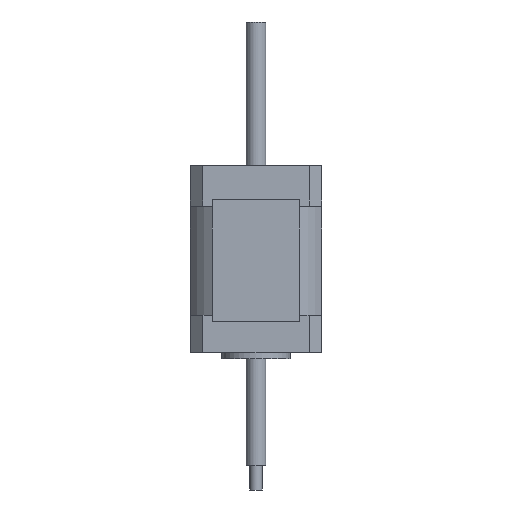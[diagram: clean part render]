
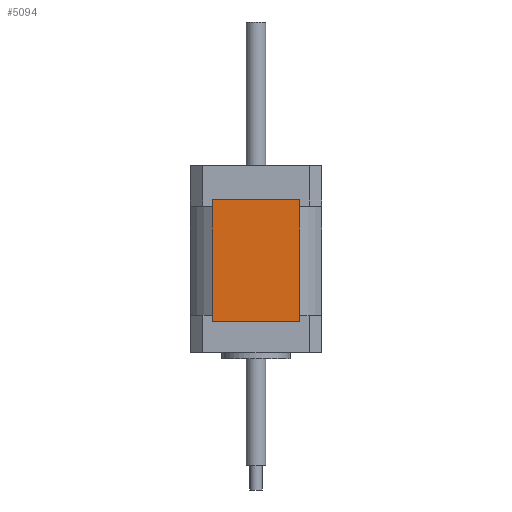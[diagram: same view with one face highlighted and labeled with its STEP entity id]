
A CAD part, front view. The second image highlights one B-rep face of the part: STEP entity #5094.
In plain terms, the highlighted planar face has unit normal (0, -1, 0).
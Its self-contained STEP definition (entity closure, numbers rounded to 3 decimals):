
#178 = CARTESIAN_POINT ( 'NONE',  ( 0., -21., 42. ) ) ;
#255 = ORIENTED_EDGE ( 'NONE', *, *, #3496, .F. ) ;
#376 = DIRECTION ( 'NONE',  ( 1., 0., 0. ) ) ;
#878 = DIRECTION ( 'NONE',  ( 0., 0., -1. ) ) ;
#1183 = ORIENTED_EDGE ( 'NONE', *, *, #2059, .T. ) ;
#1240 = VECTOR ( 'NONE', #2264, 1000. ) ;
#1372 = CARTESIAN_POINT ( 'NONE',  ( 0., -21., 3. ) ) ;
#2029 = LINE ( 'NONE', #6084, #4420 ) ;
#2059 = EDGE_CURVE ( 'NONE', #2954, #4466, #4791, .T. ) ;
#2254 = VECTOR ( 'NONE', #376, 1000. ) ;
#2264 = DIRECTION ( 'NONE',  ( 0., 0., -1. ) ) ;
#2383 = CARTESIAN_POINT ( 'NONE',  ( 14., -21., 42. ) ) ;
#2550 = EDGE_CURVE ( 'NONE', #6100, #5932, #4007, .T. ) ;
#2753 = PLANE ( 'NONE',  #3839 ) ;
#2954 = VERTEX_POINT ( 'NONE', #4697 ) ;
#3274 = DIRECTION ( 'NONE',  ( 1., 0., 0. ) ) ;
#3438 = VECTOR ( 'NONE', #878, 1000. ) ;
#3496 = EDGE_CURVE ( 'NONE', #2954, #6100, #2029, .T. ) ;
#3662 = ORIENTED_EDGE ( 'NONE', *, *, #2550, .F. ) ;
#3839 = AXIS2_PLACEMENT_3D ( 'NONE', #178, #6278, #3274 ) ;
#4007 = LINE ( 'NONE', #2383, #1240 ) ;
#4026 = EDGE_CURVE ( 'NONE', #4466, #5932, #4098, .T. ) ;
#4098 = LINE ( 'NONE', #1372, #2254 ) ;
#4367 = CARTESIAN_POINT ( 'NONE',  ( 14., -21., 3. ) ) ;
#4420 = VECTOR ( 'NONE', #6017, 1000. ) ;
#4439 = CARTESIAN_POINT ( 'NONE',  ( -14., -21., 3. ) ) ;
#4466 = VERTEX_POINT ( 'NONE', #4439 ) ;
#4503 = ORIENTED_EDGE ( 'NONE', *, *, #4026, .T. ) ;
#4697 = CARTESIAN_POINT ( 'NONE',  ( -14., -21., 42. ) ) ;
#4791 = LINE ( 'NONE', #5235, #3438 ) ;
#5094 = ADVANCED_FACE ( 'NONE', ( #5736 ), #2753, .F. ) ;
#5235 = CARTESIAN_POINT ( 'NONE',  ( -14., -21., 42. ) ) ;
#5736 = FACE_OUTER_BOUND ( 'NONE', #6023, .T. ) ;
#5932 = VERTEX_POINT ( 'NONE', #4367 ) ;
#6017 = DIRECTION ( 'NONE',  ( 1., 0., 0. ) ) ;
#6023 = EDGE_LOOP ( 'NONE', ( #4503, #3662, #255, #1183 ) ) ;
#6063 = CARTESIAN_POINT ( 'NONE',  ( 14., -21., 42. ) ) ;
#6084 = CARTESIAN_POINT ( 'NONE',  ( 0., -21., 42. ) ) ;
#6100 = VERTEX_POINT ( 'NONE', #6063 ) ;
#6278 = DIRECTION ( 'NONE',  ( 0., 1., 0. ) ) ;
